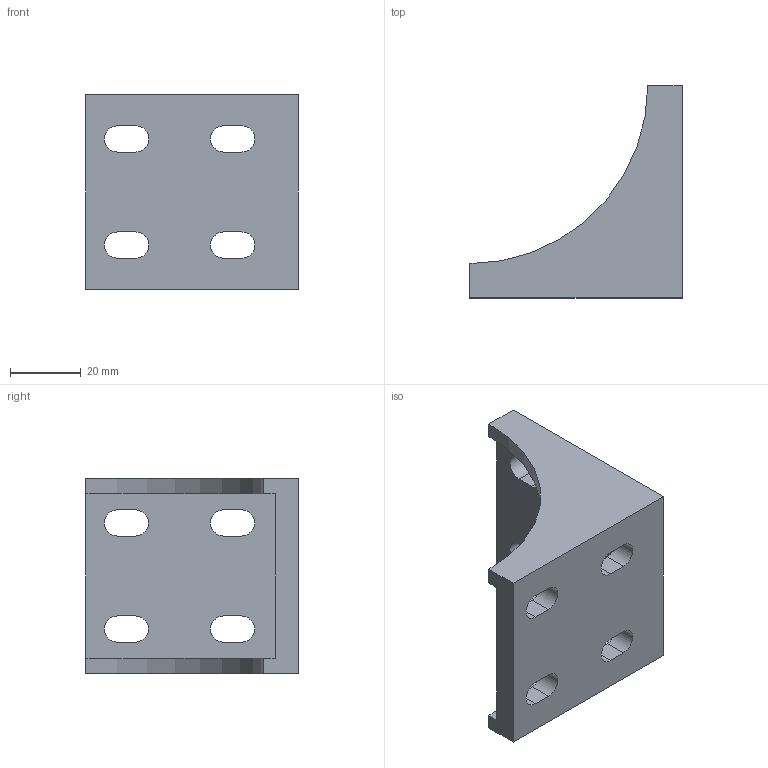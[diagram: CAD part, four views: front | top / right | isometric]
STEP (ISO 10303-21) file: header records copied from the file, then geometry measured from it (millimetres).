
FILE_DESCRIPTION(/* description */ ('Unknown'),/* implementation_level */ '2;1');
FILE_NAME(/* name */ 'DL5560K',/* time_stamp */ '2026-09-18T09:36:58+08:00',/* author */ ('Unknown'),/* organization */ ('Unknown'),/* preprocessor_version */ 'ST-DEVELOPER v16.7',/* originating_system */ 'DEX',/* authorisation */ $);
FILE_SCHEMA (('AUTOMOTIVE_DESIGN {1 0 10303 214 3 1 1}'));
Length unit declared in the file: millimetre
Products named in the file (1): DL5560 - 複
Bounding box: 60 x 60 x 55 mm (x, y, z)
Volume: 43884.1 mm3; surface area: 18436.9 mm2
Topology: 1 solids, 1 shells, 44 faces, 126 edges, 84 vertices
Faces by surface type: plane 26, cylinder 18
Entity records: 1508 total; most frequent: CARTESIAN_POINT 255, ORIENTED_EDGE 252, DIRECTION 252, EDGE_CURVE 126, LINE 90, VECTOR 90, VERTEX_POINT 84, AXIS2_PLACEMENT_3D 81
